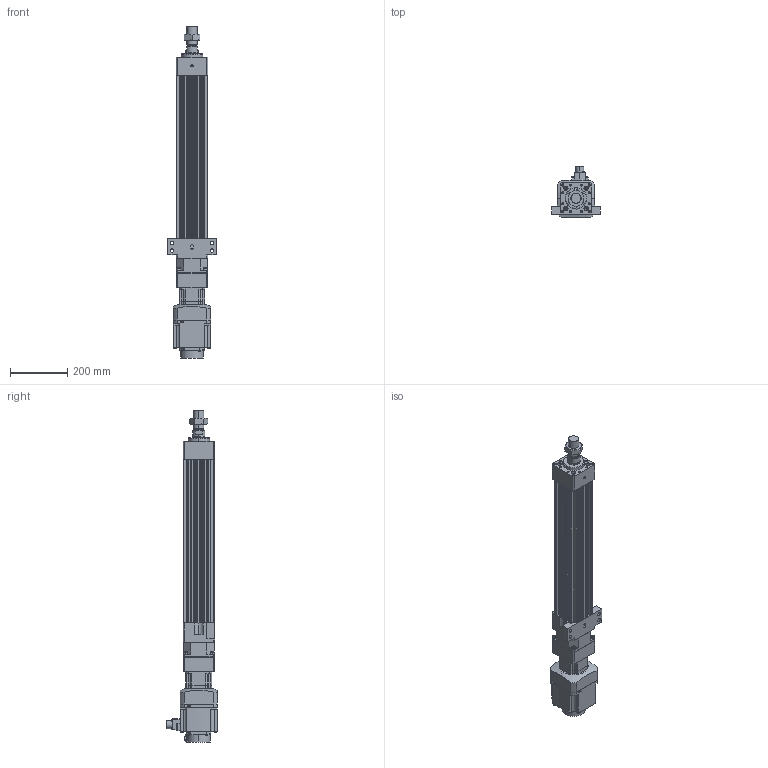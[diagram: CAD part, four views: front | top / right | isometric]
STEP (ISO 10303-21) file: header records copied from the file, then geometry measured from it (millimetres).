
FILE_DESCRIPTION (( 'STEP AP203' ), '1' );
FILE_NAME ('HES110NS(HS)-S400-W010G00-M-FFC.STEP', '2023-01-27T06:31:34', ( 'tms' ), ( '' ), 'SwSTEP 2.0', 'SolidWorks 2013', '' );
FILE_SCHEMA (( 'CONFIG_CONTROL_DESIGN' ));
Length unit declared in the file: millimetre
Products named in the file (8): AB090-003[HG-SR102B]; AB0901; P0401301004; M36X1.5P; HG-SR102; HES110-S400-G090-FFC; HES110 ROD M ST400; HES110NS(HS)-S400-W010G00-M-FFC
Assembly tree (7 placements, depth 3):
  HES110NS(HS)-S400-W010G00-M-FFC
    HES110-S400-G090-FFC
    HES110 ROD M ST400
    M36X1.5P
    AB090-003[HG-SR102B]
      AB0901
      P0401301004
    HG-SR102
Bounding box: 170 x 177.49 x 1158.5 mm (x, y, z)
Volume: 7498334.6 mm3; surface area: 1019380.5 mm2
Topology: 4 solids, 15 shells, 1217 faces, 3075 edges, 1984 vertices
Faces by surface type: plane 556, cylinder 547, cone 102, bspline 8, torus 4
Entity records: 38420 total; most frequent: CARTESIAN_POINT 7442, DIRECTION 6626, ORIENTED_EDGE 6054, EDGE_CURVE 3037, AXIS2_PLACEMENT_3D 2439, VERTEX_POINT 1984, LINE 1748, VECTOR 1748
